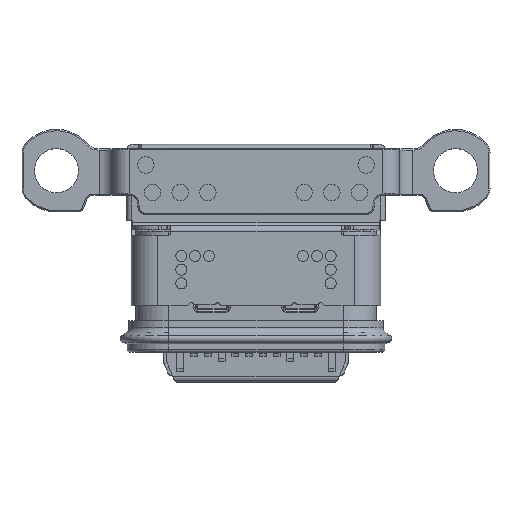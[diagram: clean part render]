
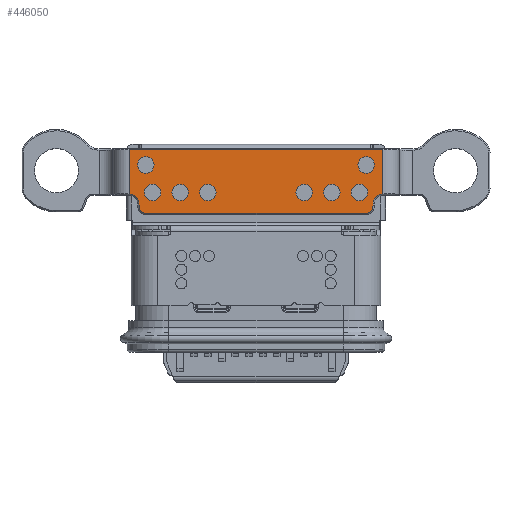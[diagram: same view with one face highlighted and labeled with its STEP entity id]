
A CAD part, top view. The second image highlights one B-rep face of the part: STEP entity #446050.
In plain terms, the highlighted planar face has unit normal (0, 0, 1) as drawn and (0, -1, 0) by its records, which use the part's own axes.
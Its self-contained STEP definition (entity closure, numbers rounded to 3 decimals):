
#443480=CARTESIAN_POINT('',(23.1,0.023,
-22.6));
#443490=VERTEX_POINT('',#443480);
#443760=CARTESIAN_POINT('',(21.5,0.023,
-22.6));
#443770=DIRECTION('',(1.,0.,0.));
#443780=VECTOR('',#443770,1.6);
#443790=LINE('',#443760,#443780);
#443800=CARTESIAN_POINT('',(21.5,0.023,
-22.6));
#443810=VERTEX_POINT('',#443800);
#443820=EDGE_CURVE('',#443810,#443490,#443790,.T.);
#444030=CARTESIAN_POINT('',(28.85,0.023,
-13.475));
#444040=DIRECTION('',(0.,-1.,0.));
#444050=DIRECTION('',(0.,0.,1.));
#444060=AXIS2_PLACEMENT_3D('',#444030,#444040,#444050);
#444070=PLANE('',#444060);
#444080=CARTESIAN_POINT('',(21.5,0.023,
-13.4));
#444090=DIRECTION('',(1.,0.,0.));
#444100=VECTOR('',#444090,1.6);
#444110=LINE('',#444080,#444100);
#444120=CARTESIAN_POINT('',(21.5,0.023,
-13.4));
#444130=VERTEX_POINT('',#444120);
#444140=CARTESIAN_POINT('',(23.1,0.023,
-13.4));
#444150=VERTEX_POINT('',#444140);
#444160=EDGE_CURVE('',#444130,#444150,#444110,.T.);
#444170=ORIENTED_EDGE('',*,*,#444160,.F.);
#444180=CARTESIAN_POINT('',(23.45,0.023,
-13.4));
#444190=DIRECTION('',(0.,1.,0.));
#444200=DIRECTION('',(0.,0.,-1.));
#444210=AXIS2_PLACEMENT_3D('',#444180,#444190,#444200);
#444220=CIRCLE('',#444210,0.35);
#444230=CARTESIAN_POINT('',(23.45,0.023,
-13.75));
#444240=VERTEX_POINT('',#444230);
#444250=EDGE_CURVE('',#444240,#444150,#444220,.T.);
#444260=ORIENTED_EDGE('',*,*,#444250,.T.);
#444270=CARTESIAN_POINT('',(23.55,0.023,
-13.75));
#444280=DIRECTION('',(-1.,0.,0.));
#444290=VECTOR('',#444280,0.1);
#444300=LINE('',#444270,#444290);
#444310=CARTESIAN_POINT('',(23.55,0.023,
-13.75));
#444320=VERTEX_POINT('',#444310);
#444330=EDGE_CURVE('',#444320,#444240,#444300,.T.);
#444340=ORIENTED_EDGE('',*,*,#444330,.T.);
#444350=CARTESIAN_POINT('',(23.55,0.023,
-14.));
#444360=DIRECTION('',(0.,-1.,0.));
#444370=DIRECTION('',(1.,0.,0.));
#444380=AXIS2_PLACEMENT_3D('',#444350,#444360,#444370);
#444390=CIRCLE('',#444380,0.25);
#444400=CARTESIAN_POINT('',(23.8,0.023,
-14.));
#444410=VERTEX_POINT('',#444400);
#444420=EDGE_CURVE('',#444410,#444320,#444390,.T.);
#444430=ORIENTED_EDGE('',*,*,#444420,.T.);
#444440=CARTESIAN_POINT('',(23.8,0.023,
-22.));
#444450=DIRECTION('',(0.,0.,1.));
#444460=VECTOR('',#444450,8.);
#444470=LINE('',#444440,#444460);
#444480=CARTESIAN_POINT('',(23.8,0.023,
-22.));
#444490=VERTEX_POINT('',#444480);
#444500=EDGE_CURVE('',#444490,#444410,#444470,.T.);
#444510=ORIENTED_EDGE('',*,*,#444500,.T.);
#444520=CARTESIAN_POINT('',(23.55,0.023,
-22.));
#444530=DIRECTION('',(0.,-1.,0.));
#444540=DIRECTION('',(0.,0.,-1.));
#444550=AXIS2_PLACEMENT_3D('',#444520,#444530,#444540);
#444560=CIRCLE('',#444550,0.25);
#444570=CARTESIAN_POINT('',(23.55,0.023,
-22.25));
#444580=VERTEX_POINT('',#444570);
#444590=EDGE_CURVE('',#444580,#444490,#444560,.T.);
#444600=ORIENTED_EDGE('',*,*,#444590,.T.);
#444610=CARTESIAN_POINT('',(23.45,0.023,
-22.25));
#444620=DIRECTION('',(1.,0.,0.));
#444630=VECTOR('',#444620,0.1);
#444640=LINE('',#444610,#444630);
#444650=CARTESIAN_POINT('',(23.45,0.023,
-22.25));
#444660=VERTEX_POINT('',#444650);
#444670=EDGE_CURVE('',#444660,#444580,#444640,.T.);
#444680=ORIENTED_EDGE('',*,*,#444670,.T.);
#444690=CARTESIAN_POINT('',(23.45,0.023,
-22.6));
#444700=DIRECTION('',(0.,1.,0.));
#444710=DIRECTION('',(-1.,0.,0.));
#444720=AXIS2_PLACEMENT_3D('',#444690,#444700,#444710);
#444730=CIRCLE('',#444720,0.35);
#444740=EDGE_CURVE('',#443490,#444660,#444730,.T.);
#444750=ORIENTED_EDGE('',*,*,#444740,.T.);
#444760=ORIENTED_EDGE('',*,*,#443820,.T.);
#444770=CARTESIAN_POINT('',(21.5,0.023,
-13.4));
#444780=DIRECTION('',(0.,0.,-1.));
#444790=VECTOR('',#444780,9.2);
#444800=LINE('',#444770,#444790);
#444810=EDGE_CURVE('',#444130,#443810,#444800,.T.);
#444820=ORIENTED_EDGE('',*,*,#444810,.T.);
#444830=EDGE_LOOP('',(#444820,#444760,#444750,#444680,#444600,#444510,
#444430,#444340,#444260,#444170));
#444840=FACE_OUTER_BOUND('',#444830,.T.);
#444850=CARTESIAN_POINT('',(23.043,0.023,
-15.247));
#444860=DIRECTION('',(0.,-1.,0.));
#444870=DIRECTION('',(0.,0.,1.));
#444880=AXIS2_PLACEMENT_3D('',#444850,#444860,#444870);
#444890=CIRCLE('',#444880,0.3);
#444900=CARTESIAN_POINT('',(23.043,0.023,
-14.947));
#444910=VERTEX_POINT('',#444900);
#444920=CARTESIAN_POINT('',(23.043,0.023,
-15.548));
#444930=VERTEX_POINT('',#444920);
#444940=EDGE_CURVE('',#444910,#444930,#444890,.T.);
#444950=ORIENTED_EDGE('',*,*,#444940,.F.);
#444960=EDGE_CURVE('',#444930,#444910,#444890,.T.);
#444970=ORIENTED_EDGE('',*,*,#444960,.F.);
#444980=EDGE_LOOP('',(#444970,#444950));
#444990=FACE_BOUND('',#444980,.T.);
#445000=CARTESIAN_POINT('',(23.043,0.023,
-20.753));
#445010=DIRECTION('',(0.,-1.,0.));
#445020=DIRECTION('',(0.,0.,1.));
#445030=AXIS2_PLACEMENT_3D('',#445000,#445010,#445020);
#445040=CIRCLE('',#445030,0.3);
#445050=CARTESIAN_POINT('',(23.043,0.023,
-20.452));
#445060=VERTEX_POINT('',#445050);
#445070=CARTESIAN_POINT('',(23.043,0.023,
-21.053));
#445080=VERTEX_POINT('',#445070);
#445090=EDGE_CURVE('',#445060,#445080,#445040,.T.);
#445100=ORIENTED_EDGE('',*,*,#445090,.F.);
#445110=EDGE_CURVE('',#445080,#445060,#445040,.T.);
#445120=ORIENTED_EDGE('',*,*,#445110,.F.);
#445130=EDGE_LOOP('',(#445120,#445100));
#445140=FACE_BOUND('',#445130,.T.);
#445150=CARTESIAN_POINT('',(23.043,0.023,
-19.752));
#445160=DIRECTION('',(0.,-1.,0.));
#445170=DIRECTION('',(0.,0.,1.));
#445180=AXIS2_PLACEMENT_3D('',#445150,#445160,#445170);
#445190=CIRCLE('',#445180,0.3);
#445200=CARTESIAN_POINT('',(23.043,0.023,
-19.451));
#445210=VERTEX_POINT('',#445200);
#445220=CARTESIAN_POINT('',(23.043,0.023,
-20.052));
#445230=VERTEX_POINT('',#445220);
#445240=EDGE_CURVE('',#445210,#445230,#445190,.T.);
#445250=ORIENTED_EDGE('',*,*,#445240,.F.);
#445260=EDGE_CURVE('',#445230,#445210,#445190,.T.);
#445270=ORIENTED_EDGE('',*,*,#445260,.F.);
#445280=EDGE_LOOP('',(#445270,#445250));
#445290=FACE_BOUND('',#445280,.T.);
#445300=CARTESIAN_POINT('',(22.042,0.023,
-22.004));
#445310=DIRECTION('',(0.,-1.,0.));
#445320=DIRECTION('',(0.,0.,1.));
#445330=AXIS2_PLACEMENT_3D('',#445300,#445310,#445320);
#445340=CIRCLE('',#445330,0.3);
#445350=CARTESIAN_POINT('',(22.042,0.023,
-21.704));
#445360=VERTEX_POINT('',#445350);
#445370=CARTESIAN_POINT('',(22.042,0.023,
-22.304));
#445380=VERTEX_POINT('',#445370);
#445390=EDGE_CURVE('',#445360,#445380,#445340,.T.);
#445400=ORIENTED_EDGE('',*,*,#445390,.F.);
#445410=EDGE_CURVE('',#445380,#445360,#445340,.T.);
#445420=ORIENTED_EDGE('',*,*,#445410,.F.);
#445430=EDGE_LOOP('',(#445420,#445400));
#445440=FACE_BOUND('',#445430,.T.);
#445450=CARTESIAN_POINT('',(23.043,0.023,
-14.246));
#445460=DIRECTION('',(0.,-1.,0.));
#445470=DIRECTION('',(0.,0.,1.));
#445480=AXIS2_PLACEMENT_3D('',#445450,#445460,#445470);
#445490=CIRCLE('',#445480,0.3);
#445500=CARTESIAN_POINT('',(23.043,0.023,
-13.946));
#445510=VERTEX_POINT('',#445500);
#445520=CARTESIAN_POINT('',(23.043,0.023,
-14.547));
#445530=VERTEX_POINT('',#445520);
#445540=EDGE_CURVE('',#445510,#445530,#445490,.T.);
#445550=ORIENTED_EDGE('',*,*,#445540,.F.);
#445560=EDGE_CURVE('',#445530,#445510,#445490,.T.);
#445570=ORIENTED_EDGE('',*,*,#445560,.F.);
#445580=EDGE_LOOP('',(#445570,#445550));
#445590=FACE_BOUND('',#445580,.T.);
#445600=CARTESIAN_POINT('',(23.043,0.023,
-16.248));
#445610=DIRECTION('',(0.,-1.,0.));
#445620=DIRECTION('',(0.,0.,1.));
#445630=AXIS2_PLACEMENT_3D('',#445600,#445610,#445620);
#445640=CIRCLE('',#445630,0.3);
#445650=CARTESIAN_POINT('',(23.043,0.023,
-15.948));
#445660=VERTEX_POINT('',#445650);
#445670=CARTESIAN_POINT('',(23.043,0.023,
-16.549));
#445680=VERTEX_POINT('',#445670);
#445690=EDGE_CURVE('',#445660,#445680,#445640,.T.);
#445700=ORIENTED_EDGE('',*,*,#445690,.F.);
#445710=EDGE_CURVE('',#445680,#445660,#445640,.T.);
#445720=ORIENTED_EDGE('',*,*,#445710,.F.);
#445730=EDGE_LOOP('',(#445720,#445700));
#445740=FACE_BOUND('',#445730,.T.);
#445750=CARTESIAN_POINT('',(23.043,0.023,
-21.754));
#445760=DIRECTION('',(0.,-1.,0.));
#445770=DIRECTION('',(0.,0.,1.));
#445780=AXIS2_PLACEMENT_3D('',#445750,#445760,#445770);
#445790=CIRCLE('',#445780,0.3);
#445800=CARTESIAN_POINT('',(23.043,0.023,
-21.453));
#445810=VERTEX_POINT('',#445800);
#445820=CARTESIAN_POINT('',(23.043,0.023,
-22.054));
#445830=VERTEX_POINT('',#445820);
#445840=EDGE_CURVE('',#445810,#445830,#445790,.T.);
#445850=ORIENTED_EDGE('',*,*,#445840,.F.);
#445860=EDGE_CURVE('',#445830,#445810,#445790,.T.);
#445870=ORIENTED_EDGE('',*,*,#445860,.F.);
#445880=EDGE_LOOP('',(#445870,#445850));
#445890=FACE_BOUND('',#445880,.T.);
#445900=CARTESIAN_POINT('',(22.042,0.023,
-13.996));
#445910=DIRECTION('',(0.,-1.,0.));
#445920=DIRECTION('',(0.,0.,1.));
#445930=AXIS2_PLACEMENT_3D('',#445900,#445910,#445920);
#445940=CIRCLE('',#445930,0.3);
#445950=CARTESIAN_POINT('',(22.042,0.023,
-13.696));
#445960=VERTEX_POINT('',#445950);
#445970=CARTESIAN_POINT('',(22.042,0.023,
-14.296));
#445980=VERTEX_POINT('',#445970);
#445990=EDGE_CURVE('',#445960,#445980,#445940,.T.);
#446000=ORIENTED_EDGE('',*,*,#445990,.F.);
#446010=EDGE_CURVE('',#445980,#445960,#445940,.T.);
#446020=ORIENTED_EDGE('',*,*,#446010,.F.);
#446030=EDGE_LOOP('',(#446020,#446000));
#446040=FACE_BOUND('',#446030,.T.);
#446050=ADVANCED_FACE('',(#444840,#444990,#445140,#445290,#445440,
#445590,#445740,#445890,#446040),#444070,.T.);
